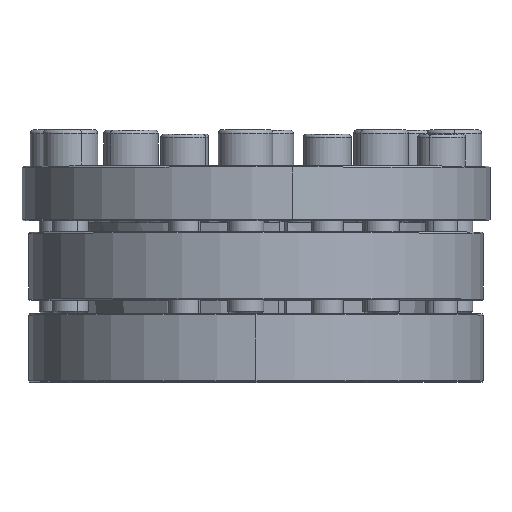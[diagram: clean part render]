
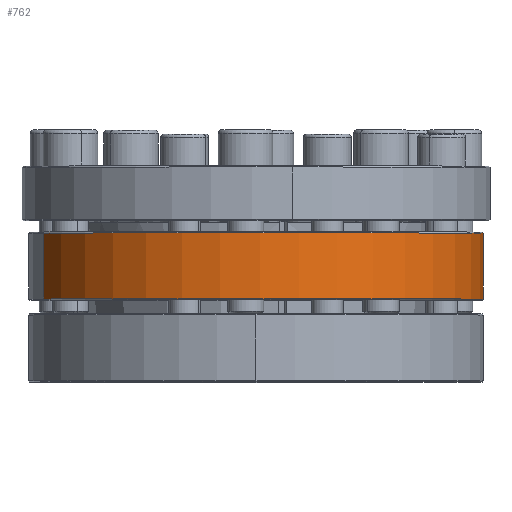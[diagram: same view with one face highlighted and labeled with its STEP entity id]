
A CAD part, top view. The second image highlights one B-rep face of the part: STEP entity #762.
In plain terms, the highlighted cylindrical face has radius 100 mm (diameter 200 mm), a partial arc.
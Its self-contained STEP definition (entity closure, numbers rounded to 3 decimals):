
#762 = ADVANCED_FACE ( 'NONE', ( #12808 ), #10813, .T. ) ;
#901 = CIRCLE ( 'NONE', #11147, 100. ) ;
#1568 = DIRECTION ( 'NONE',  ( 0., -1., 0. ) ) ;
#1826 = AXIS2_PLACEMENT_3D ( 'NONE', #25571, #4397, #12828 ) ;
#2101 = DIRECTION ( 'NONE',  ( 0., -1., 0. ) ) ;
#2732 = ORIENTED_EDGE ( 'NONE', *, *, #12522, .T. ) ;
#2892 = ORIENTED_EDGE ( 'NONE', *, *, #23387, .T. ) ;
#3184 = CIRCLE ( 'NONE', #11154, 100. ) ;
#4397 = DIRECTION ( 'NONE',  ( 0., -1., 0. ) ) ;
#4834 = VERTEX_POINT ( 'NONE', #16746 ) ;
#6177 = EDGE_CURVE ( 'NONE', #17690, #4834, #16725, .T. ) ;
#6186 = CARTESIAN_POINT ( 'NONE',  ( -93.358, 36.002, 35.837 ) ) ;
#6267 = EDGE_CURVE ( 'NONE', #17690, #10796, #901, .T. ) ;
#7404 = VECTOR ( 'NONE', #2101, 1000. ) ;
#10796 = VERTEX_POINT ( 'NONE', #26738 ) ;
#10813 = CYLINDRICAL_SURFACE ( 'NONE', #1826, 100. ) ;
#10954 = DIRECTION ( 'NONE',  ( 0., 1., 0. ) ) ;
#11147 = AXIS2_PLACEMENT_3D ( 'NONE', #14149, #1568, #16263 ) ;
#11154 = AXIS2_PLACEMENT_3D ( 'NONE', #23669, #10954, #25827 ) ;
#12522 = EDGE_CURVE ( 'NONE', #10796, #19455, #18655, .T. ) ;
#12808 = FACE_OUTER_BOUND ( 'NONE', #13286, .T. ) ;
#12828 = DIRECTION ( 'NONE',  ( 0.934, 0., -0.358 ) ) ;
#13135 = CARTESIAN_POINT ( 'NONE',  ( 93.358, 65.502, -35.837 ) ) ;
#13286 = EDGE_LOOP ( 'NONE', ( #21119, #2732, #2892, #17265 ) ) ;
#14149 = CARTESIAN_POINT ( 'NONE',  ( 0., 65.502, 0. ) ) ;
#16263 = DIRECTION ( 'NONE',  ( 0.934, 0., -0.358 ) ) ;
#16725 = LINE ( 'NONE', #20167, #21707 ) ;
#16746 = CARTESIAN_POINT ( 'NONE',  ( 93.358, 36.502, -35.837 ) ) ;
#17265 = ORIENTED_EDGE ( 'NONE', *, *, #6177, .F. ) ;
#17690 = VERTEX_POINT ( 'NONE', #13135 ) ;
#18655 = LINE ( 'NONE', #6186, #7404 ) ;
#19455 = VERTEX_POINT ( 'NONE', #26478 ) ;
#20167 = CARTESIAN_POINT ( 'NONE',  ( 93.358, 36.002, -35.837 ) ) ;
#21119 = ORIENTED_EDGE ( 'NONE', *, *, #6267, .T. ) ;
#21707 = VECTOR ( 'NONE', #22332, 1000. ) ;
#22332 = DIRECTION ( 'NONE',  ( 0., -1., 0. ) ) ;
#23387 = EDGE_CURVE ( 'NONE', #19455, #4834, #3184, .T. ) ;
#23669 = CARTESIAN_POINT ( 'NONE',  ( 0., 36.502, 0. ) ) ;
#25571 = CARTESIAN_POINT ( 'NONE',  ( 0., 36.002, 0. ) ) ;
#25827 = DIRECTION ( 'NONE',  ( -0.934, 0., 0.358 ) ) ;
#26478 = CARTESIAN_POINT ( 'NONE',  ( -93.358, 36.502, 35.837 ) ) ;
#26738 = CARTESIAN_POINT ( 'NONE',  ( -93.358, 65.502, 35.837 ) ) ;
